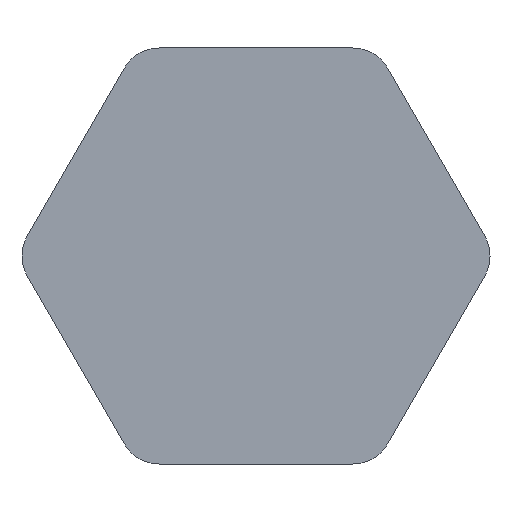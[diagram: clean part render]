
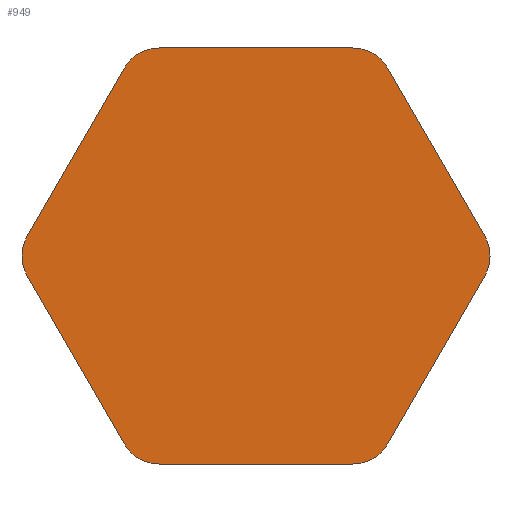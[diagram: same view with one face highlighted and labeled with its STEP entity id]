
A CAD part, front view. The second image highlights one B-rep face of the part: STEP entity #949.
In plain terms, the highlighted planar face has unit normal (0, -1, 0).
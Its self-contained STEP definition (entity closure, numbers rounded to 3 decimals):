
#15 = CARTESIAN_POINT ( 'NONE',  ( 16.743, -2., 36. ) ) ;
#54 = ORIENTED_EDGE ( 'NONE', *, *, #1235, .F. ) ;
#102 = CARTESIAN_POINT ( 'NONE',  ( -16.743, -2., -29. ) ) ;
#130 = EDGE_CURVE ( 'NONE', #243, #1303, #780, .T. ) ;
#139 = LINE ( 'NONE', #1200, #848 ) ;
#145 = DIRECTION ( 'NONE',  ( 0., 1., 0. ) ) ;
#159 = CARTESIAN_POINT ( 'NONE',  ( -16.743, -2., -29. ) ) ;
#160 = VERTEX_POINT ( 'NONE', #1932 ) ;
#169 = LINE ( 'NONE', #1021, #1684 ) ;
#195 = DIRECTION ( 'NONE',  ( 0.866, 0., -0.5 ) ) ;
#196 = ORIENTED_EDGE ( 'NONE', *, *, #1918, .F. ) ;
#198 = VERTEX_POINT ( 'NONE', #376 ) ;
#243 = VERTEX_POINT ( 'NONE', #1470 ) ;
#254 = EDGE_CURVE ( 'NONE', #160, #2061, #2131, .T. ) ;
#274 = CARTESIAN_POINT ( 'NONE',  ( 16.743, -2., 36. ) ) ;
#374 = CARTESIAN_POINT ( 'NONE',  ( 22.805, -2., 32.5 ) ) ;
#376 = CARTESIAN_POINT ( 'NONE',  ( -22.805, -2., 32.5 ) ) ;
#387 = AXIS2_PLACEMENT_3D ( 'NONE', #159, #669, #1879 ) ;
#410 = CARTESIAN_POINT ( 'NONE',  ( 33.486, -2., 0. ) ) ;
#429 = DIRECTION ( 'NONE',  ( 0., -1., 0. ) ) ;
#484 = LINE ( 'NONE', #1000, #2147 ) ;
#488 = VERTEX_POINT ( 'NONE', #966 ) ;
#499 = CARTESIAN_POINT ( 'NONE',  ( 22.805, -2., -32.5 ) ) ;
#506 = DIRECTION ( 'NONE',  ( -1., 0., 0. ) ) ;
#574 = EDGE_CURVE ( 'NONE', #1896, #1978, #987, .T. ) ;
#584 = DIRECTION ( 'NONE',  ( 0., 0., -1. ) ) ;
#602 = VECTOR ( 'NONE', #506, 1000. ) ;
#612 = EDGE_CURVE ( 'NONE', #488, #1884, #169, .T. ) ;
#635 = DIRECTION ( 'NONE',  ( 0., -1., 0. ) ) ;
#637 = VERTEX_POINT ( 'NONE', #1191 ) ;
#665 = EDGE_CURVE ( 'NONE', #2065, #2130, #139, .T. ) ;
#669 = DIRECTION ( 'NONE',  ( 0., 1., 0. ) ) ;
#676 = EDGE_CURVE ( 'NONE', #637, #243, #484, .T. ) ;
#734 = ORIENTED_EDGE ( 'NONE', *, *, #676, .F. ) ;
#752 = AXIS2_PLACEMENT_3D ( 'NONE', #410, #635, #195 ) ;
#780 = CIRCLE ( 'NONE', #1862, 7. ) ;
#785 = DIRECTION ( 'NONE',  ( 0., 1., 0. ) ) ;
#794 = AXIS2_PLACEMENT_3D ( 'NONE', #1997, #145, #1848 ) ;
#798 = CARTESIAN_POINT ( 'NONE',  ( -39.548, -2., 3.5 ) ) ;
#848 = VECTOR ( 'NONE', #2045, 1000. ) ;
#861 = AXIS2_PLACEMENT_3D ( 'NONE', #1074, #429, #891 ) ;
#891 = DIRECTION ( 'NONE',  ( 0., 0., -1. ) ) ;
#922 = EDGE_CURVE ( 'NONE', #488, #637, #1575, .T. ) ;
#925 = DIRECTION ( 'NONE',  ( -0.5, 0., 0.866 ) ) ;
#949 = ADVANCED_FACE ( 'NONE', ( #2030 ), #1197, .F. ) ;
#960 = LINE ( 'NONE', #798, #1332 ) ;
#961 = AXIS2_PLACEMENT_3D ( 'NONE', #102, #785, #584 ) ;
#966 = CARTESIAN_POINT ( 'NONE',  ( -16.743, -2., -36. ) ) ;
#987 = LINE ( 'NONE', #15, #602 ) ;
#1000 = CARTESIAN_POINT ( 'NONE',  ( -22.805, -2., -32.5 ) ) ;
#1012 = DIRECTION ( 'NONE',  ( 1., 0., 0. ) ) ;
#1021 = CARTESIAN_POINT ( 'NONE',  ( -16.743, -2., -36. ) ) ;
#1028 = ORIENTED_EDGE ( 'NONE', *, *, #1341, .T. ) ;
#1034 = DIRECTION ( 'NONE',  ( 0.866, 0., 0.5 ) ) ;
#1041 = AXIS2_PLACEMENT_3D ( 'NONE', #1544, #1157, #1034 ) ;
#1074 = CARTESIAN_POINT ( 'NONE',  ( 16.743, -2., -29. ) ) ;
#1109 = CARTESIAN_POINT ( 'NONE',  ( -39.548, -2., 3.5 ) ) ;
#1157 = DIRECTION ( 'NONE',  ( 0., -1., 0. ) ) ;
#1166 = ORIENTED_EDGE ( 'NONE', *, *, #922, .F. ) ;
#1191 = CARTESIAN_POINT ( 'NONE',  ( -22.805, -2., -32.5 ) ) ;
#1197 = PLANE ( 'NONE',  #387 ) ;
#1200 = CARTESIAN_POINT ( 'NONE',  ( 22.805, -2., -32.5 ) ) ;
#1218 = ORIENTED_EDGE ( 'NONE', *, *, #612, .T. ) ;
#1235 = EDGE_CURVE ( 'NONE', #1303, #198, #960, .T. ) ;
#1242 = VECTOR ( 'NONE', #925, 1000. ) ;
#1274 = DIRECTION ( 'NONE',  ( 0.5, 0., 0.866 ) ) ;
#1303 = VERTEX_POINT ( 'NONE', #1109 ) ;
#1332 = VECTOR ( 'NONE', #1274, 1000. ) ;
#1338 = ORIENTED_EDGE ( 'NONE', *, *, #665, .T. ) ;
#1341 = EDGE_CURVE ( 'NONE', #2130, #160, #1727, .T. ) ;
#1366 = EDGE_CURVE ( 'NONE', #2061, #1896, #2014, .T. ) ;
#1415 = ORIENTED_EDGE ( 'NONE', *, *, #2216, .T. ) ;
#1470 = CARTESIAN_POINT ( 'NONE',  ( -39.548, -2., -3.5 ) ) ;
#1528 = EDGE_LOOP ( 'NONE', ( #1757, #196, #54, #2164, #734, #1166, #1218, #1415, #1338, #1028, #1616, #1863 ) ) ;
#1544 = CARTESIAN_POINT ( 'NONE',  ( 16.743, -2., 29. ) ) ;
#1569 = DIRECTION ( 'NONE',  ( 0., 1., 0. ) ) ;
#1575 = CIRCLE ( 'NONE', #961, 7. ) ;
#1616 = ORIENTED_EDGE ( 'NONE', *, *, #254, .T. ) ;
#1684 = VECTOR ( 'NONE', #1012, 1000. ) ;
#1697 = CARTESIAN_POINT ( 'NONE',  ( -16.743, -2., 36. ) ) ;
#1727 = CIRCLE ( 'NONE', #752, 7. ) ;
#1733 = CIRCLE ( 'NONE', #861, 7. ) ;
#1744 = DIRECTION ( 'NONE',  ( -0.866, 0., -0.5 ) ) ;
#1757 = ORIENTED_EDGE ( 'NONE', *, *, #574, .T. ) ;
#1767 = CIRCLE ( 'NONE', #794, 7. ) ;
#1778 = CARTESIAN_POINT ( 'NONE',  ( -33.486, -2., 0. ) ) ;
#1848 = DIRECTION ( 'NONE',  ( -0.866, 0., 0.5 ) ) ;
#1862 = AXIS2_PLACEMENT_3D ( 'NONE', #1778, #1569, #1744 ) ;
#1863 = ORIENTED_EDGE ( 'NONE', *, *, #1366, .T. ) ;
#1879 = DIRECTION ( 'NONE',  ( 0., 0., 1. ) ) ;
#1884 = VERTEX_POINT ( 'NONE', #2008 ) ;
#1896 = VERTEX_POINT ( 'NONE', #274 ) ;
#1918 = EDGE_CURVE ( 'NONE', #198, #1978, #1767, .T. ) ;
#1932 = CARTESIAN_POINT ( 'NONE',  ( 39.548, -2., 3.5 ) ) ;
#1966 = CARTESIAN_POINT ( 'NONE',  ( 39.548, -2., 3.5 ) ) ;
#1978 = VERTEX_POINT ( 'NONE', #1697 ) ;
#1997 = CARTESIAN_POINT ( 'NONE',  ( -16.743, -2., 29. ) ) ;
#2008 = CARTESIAN_POINT ( 'NONE',  ( 16.743, -2., -36. ) ) ;
#2014 = CIRCLE ( 'NONE', #1041, 7. ) ;
#2030 = FACE_OUTER_BOUND ( 'NONE', #1528, .T. ) ;
#2045 = DIRECTION ( 'NONE',  ( 0.5, 0., 0.866 ) ) ;
#2061 = VERTEX_POINT ( 'NONE', #374 ) ;
#2065 = VERTEX_POINT ( 'NONE', #499 ) ;
#2130 = VERTEX_POINT ( 'NONE', #2208 ) ;
#2131 = LINE ( 'NONE', #1966, #1242 ) ;
#2147 = VECTOR ( 'NONE', #2212, 1000. ) ;
#2164 = ORIENTED_EDGE ( 'NONE', *, *, #130, .F. ) ;
#2208 = CARTESIAN_POINT ( 'NONE',  ( 39.548, -2., -3.5 ) ) ;
#2212 = DIRECTION ( 'NONE',  ( -0.5, 0., 0.866 ) ) ;
#2216 = EDGE_CURVE ( 'NONE', #1884, #2065, #1733, .T. ) ;
